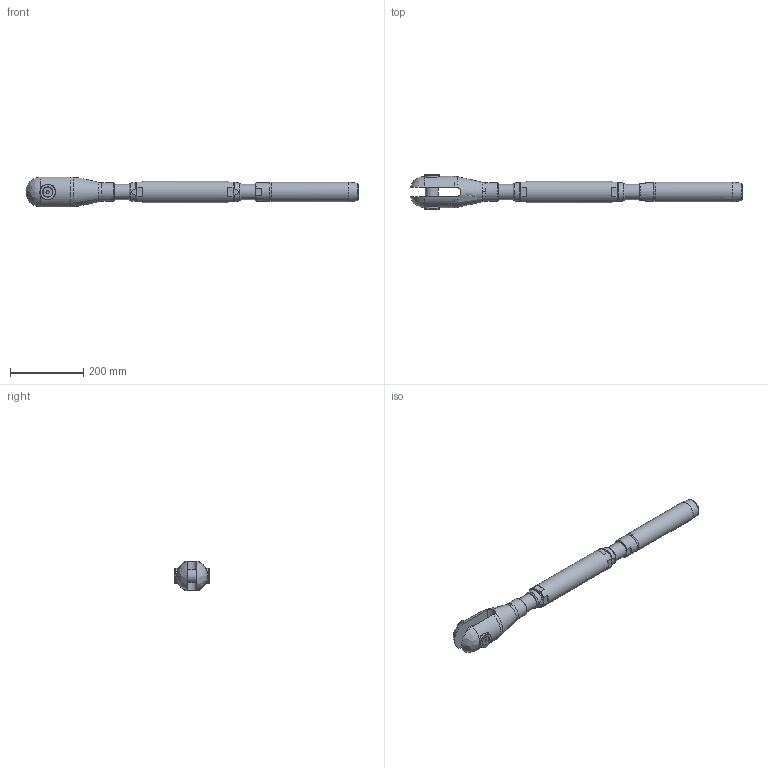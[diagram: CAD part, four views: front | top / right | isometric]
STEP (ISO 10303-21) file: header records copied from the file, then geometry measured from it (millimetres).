
FILE_DESCRIPTION(/* description */ (''),/* implementation_level */ '2;1');
FILE_NAME(/* name */ 'TBC 26_1,4462',/* time_stamp */ '2023-05-23T18:17:13+02:00',/* author */ (''),/* organization */ (''),/* preprocessor_version */ 'ST-DEVELOPER v16.5',/* originating_system */ 'Rhino 7.22',/* authorisation */ '');
FILE_SCHEMA (('CONFIG_CONTROL_DESIGN'));
Length unit declared in the file: millimetre
Products named in the file (1): Document
Bounding box: 908.75 x 93.15 x 81.65 mm (x, y, z)
Volume: 2172522.5 mm3; surface area: 293040.3 mm2
Topology: 10 solids, 10 shells, 141 faces, 384 edges, 265 vertices
Faces by surface type: plane 65, bspline 41, cylinder 35
Full cylindrical faces by diameter (mm): 11.835 x2, 14 x2, 14.5 x2, 26.52 x2, 36 x1, 38 x2, 38.752 x4, 42 x4, 46 x1, 50.8 x2, 53.4 x1, 59 x1
Entity records: 5918 total; most frequent: CARTESIAN_POINT 3482, ORIENTED_EDGE 760, EDGE_CURVE 380, VERTEX_POINT 265, EDGE_LOOP 161, B_SPLINE_CURVE_WITH_KNOTS 158, ADVANCED_FACE 141, FACE_OUTER_BOUND 141
